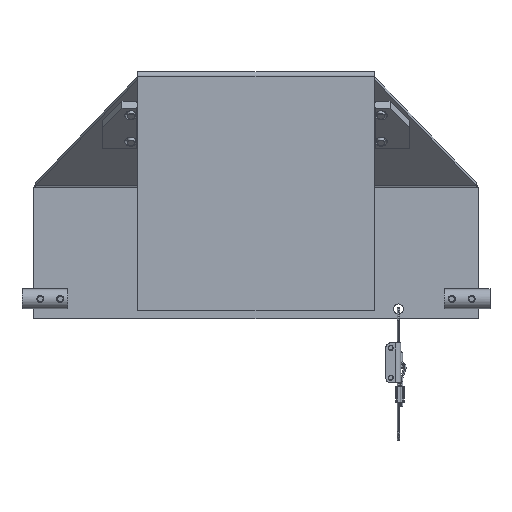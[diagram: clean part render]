
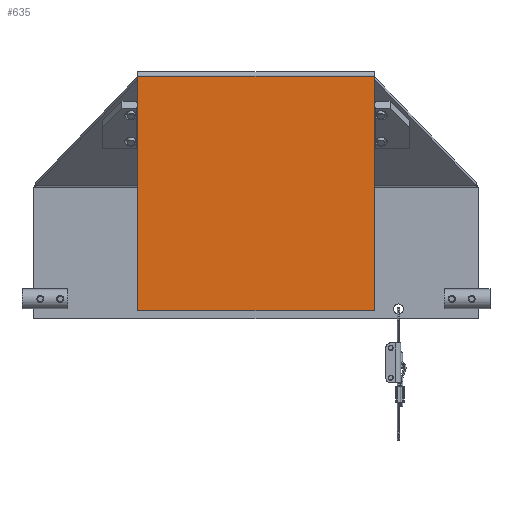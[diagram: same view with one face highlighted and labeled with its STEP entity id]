
A CAD part, front view. The second image highlights one B-rep face of the part: STEP entity #635.
In plain terms, the highlighted planar face has unit normal (0, -1, 0).
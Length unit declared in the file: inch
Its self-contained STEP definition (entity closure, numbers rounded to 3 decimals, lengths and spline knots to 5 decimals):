
#202=DIRECTION('',(0.,0.,1.));
#203=VECTOR('',#202,5.8922);
#204=CARTESIAN_POINT('',(2.97,-0.0478,-5.9522));
#205=LINE('',#204,#203);
#218=DIRECTION('',(0.,0.,1.));
#219=VECTOR('',#218,5.8922);
#220=CARTESIAN_POINT('',(-2.97,-0.0478,-5.9522));
#221=LINE('',#220,#219);
#222=DIRECTION('',(-1.,0.,0.));
#223=VECTOR('',#222,5.94);
#224=CARTESIAN_POINT('',(2.97,-0.0478,-5.9522));
#225=LINE('',#224,#223);
#230=DIRECTION('',(-1.,0.,0.));
#231=VECTOR('',#230,5.94);
#232=CARTESIAN_POINT('',(2.97,-0.0478,-0.06));
#233=LINE('',#232,#231);
#262=CARTESIAN_POINT('',(2.97,-0.0478,-5.9522));
#263=CARTESIAN_POINT('',(2.97,-0.0478,-0.06));
#264=VERTEX_POINT('',#262);
#265=VERTEX_POINT('',#263);
#272=CARTESIAN_POINT('',(-2.97,-0.0478,-5.9522));
#273=CARTESIAN_POINT('',(-2.97,-0.0478,-0.06));
#274=VERTEX_POINT('',#272);
#275=VERTEX_POINT('',#273);
#622=CARTESIAN_POINT('',(2.97,-0.0478,-5.9522));
#623=DIRECTION('',(0.,1.,0.));
#624=DIRECTION('',(0.,0.,1.));
#625=AXIS2_PLACEMENT_3D('',#622,#623,#624);
#626=PLANE('',#625);
#627=ORIENTED_EDGE('',*,*,#588,.F.);
#629=ORIENTED_EDGE('',*,*,#628,.T.);
#630=ORIENTED_EDGE('',*,*,#615,.T.);
#632=ORIENTED_EDGE('',*,*,#631,.F.);
#633=EDGE_LOOP('',(#627,#629,#630,#632));
#634=FACE_OUTER_BOUND('',#633,.F.);
#588=EDGE_CURVE('',#264,#265,#205,.T.);
#615=EDGE_CURVE('',#274,#275,#221,.T.);
#628=EDGE_CURVE('',#264,#274,#225,.T.);
#631=EDGE_CURVE('',#265,#275,#233,.T.);
#635=ADVANCED_FACE('',(#634),#626,.F.);
